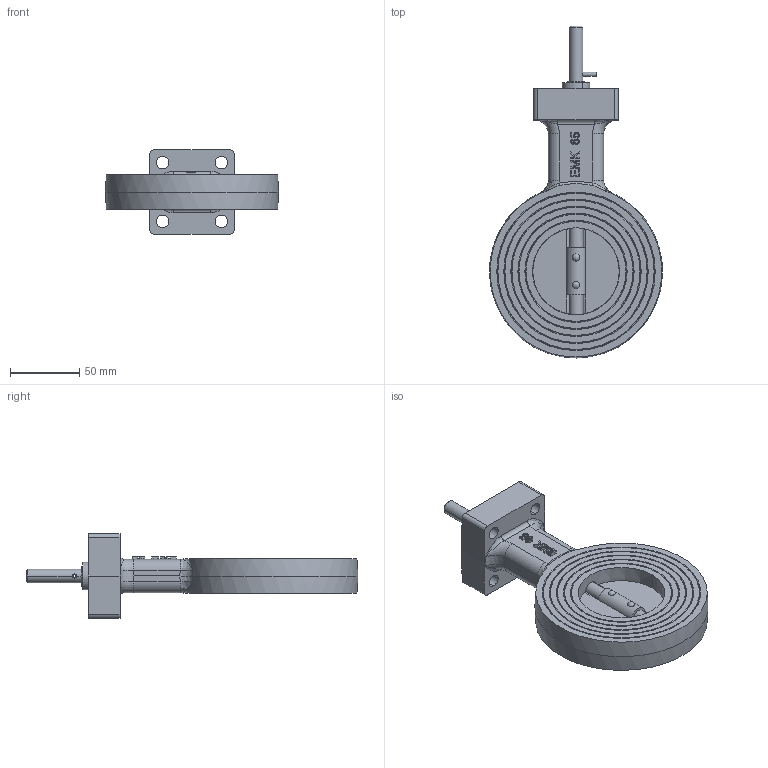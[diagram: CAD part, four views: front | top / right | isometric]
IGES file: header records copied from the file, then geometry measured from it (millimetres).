
Global section: file name: No Iges File Name specified; native system: AutoDesk Inventor R12.0; preprocessor: AutoDesk Inventor Iges Exporter R12.0; date: 20100819.113054; units: millimetre
Bounding box: 125.19 x 240.15 x 61 mm (x, y, z)
Volume: 364329.9 mm3; surface area: 70140.7 mm2
Topology: 1 solids, 1 shells, 401 faces, 1025 edges, 650 vertices
Faces by surface type: plane 182, bspline 89, cylinder 50, revolution 40, cone 32, sphere 4, torus 4
